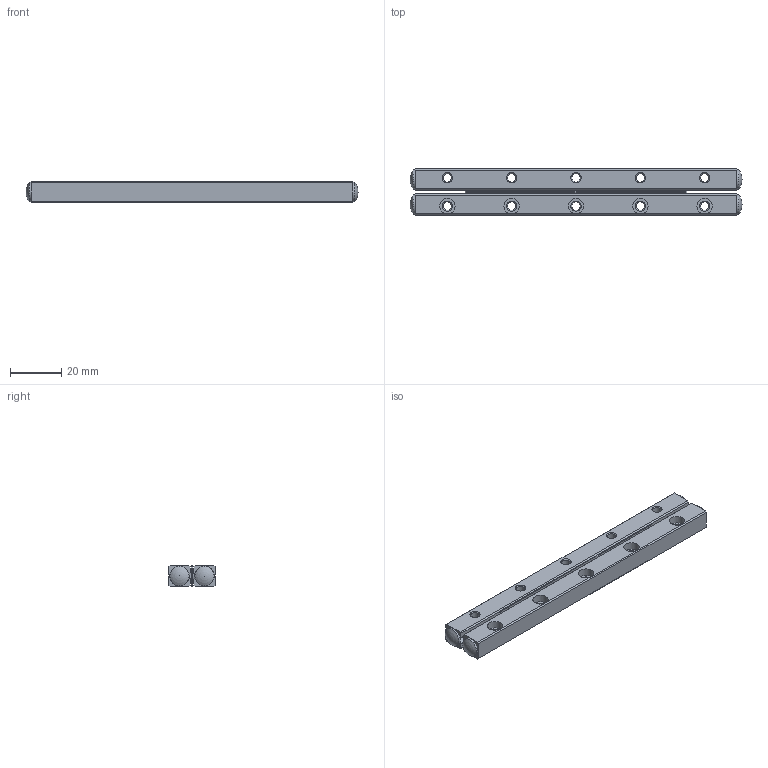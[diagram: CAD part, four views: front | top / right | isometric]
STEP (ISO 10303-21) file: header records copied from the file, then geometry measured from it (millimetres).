
FILE_DESCRIPTION(/* description */ ('Unknown'),/* implementation_level */ '2;1');
FILE_NAME(/* name */ 'VR3-125x17Z',/* time_stamp */ '2025-06-12T09:16:04+08:00',/* author */ ('Unknown'),/* organization */ ('Unknown'),/* preprocessor_version */ 'ST-DEVELOPER v18.102',/* originating_system */ 'Solid Edge',/* authorisation */ 'Unknown');
FILE_SCHEMA (('AUTOMOTIVE_DESIGN {1 0 10303 214 3 1 1}'));
Length unit declared in the file: millimetre
Products named in the file (4): VR3-125x17Z; VR3-125_17Z Roller guide; VR3-125_17Z Roller cage; VR3-125_17Z Roller guide; Top
Assembly tree (3 placements, depth 2):
  VR3-125x17Z
    VR3-125_17Z Roller guide
    VR3-125_17Z Roller cage
    VR3-125_17Z Roller guide; Top
Bounding box: 129 x 18 x 8 mm (x, y, z)
Volume: 15455.1 mm3; surface area: 11166.8 mm2
Topology: 3 solids, 3 shells, 285 faces, 757 edges, 484 vertices
Faces by surface type: plane 186, cone 58, cylinder 37, torus 4
Full cylindrical faces by diameter (mm): 3 x17, 3.3 x10, 6 x10
Entity records: 8473 total; most frequent: DIRECTION 1432, CARTESIAN_POINT 1411, ORIENTED_EDGE 1292, EDGE_CURVE 646, AXIS2_PLACEMENT_3D 497, FACE_BOUND 482, EDGE_LOOP 478, VERTEX_POINT 476
